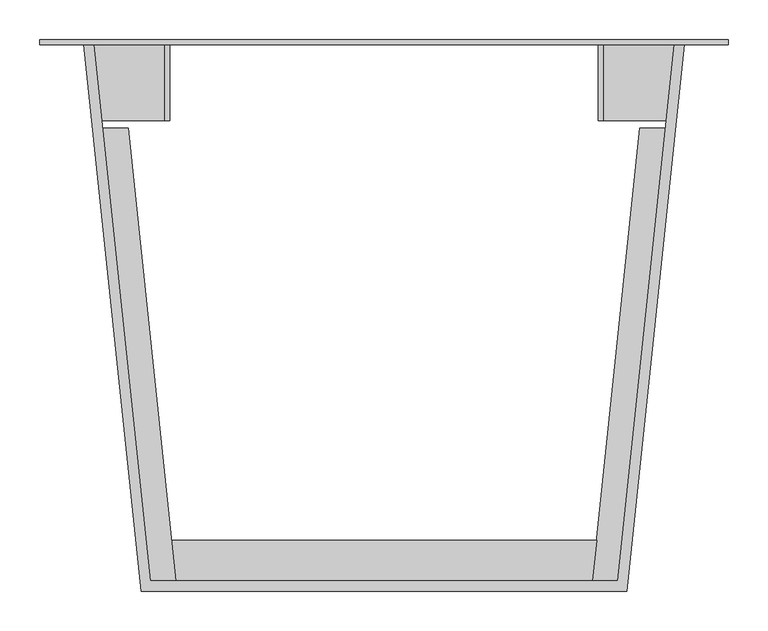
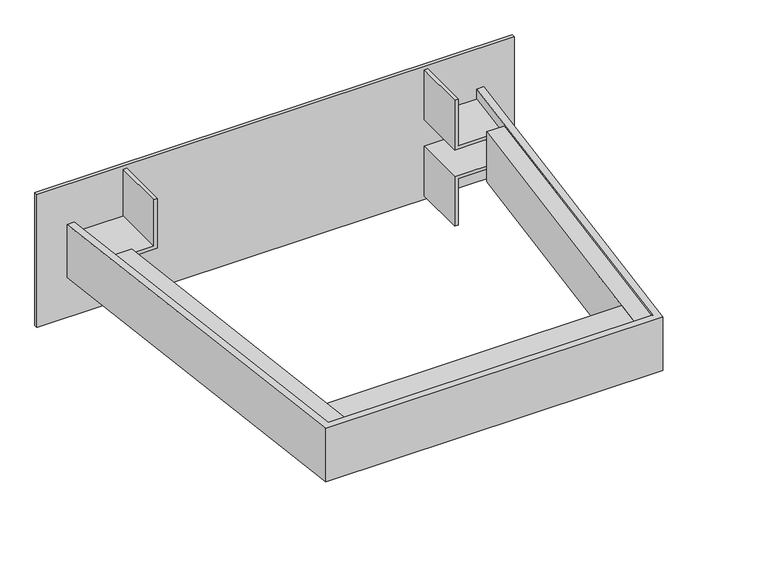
"""IFC4 building model written with IfcOpenShell, lengths in millimetres: proxy geometry, IMPRESS^TABLE 6_24in CTR BASE-PARTS SOLID."""

from ifc_helpers import new_model, si_unit, frame, origin, place, context, project, spatial, polyline, outline, extrude, faceted_brep, source, transform, mapped, element, save


def generic_models_32476a3b(model_context):
    return source(origin(), model_context, "Body", "SolidModel", [
        extrude(outline(polyline([(-48.2982331, 581.025), (-16.3733453, 581.025), (43.3600192, 12.7), (11.4351314, 12.7), (-48.2982331, 581.025)])), frame((0.0, 0.0, 3.175), z_axis=(0.0, 0.0, 1.0), x_axis=(1.0, 0.0, 0.0)), (0.0, 0.0, 1.0), 95.25),
        extrude(outline(polyline([(571.5792759, 63.5), (566.2399808, 12.7), (43.3600192, 12.7), (38.0207241, 63.5), (571.5792759, 63.5)])), frame((0.0, 0.0, 3.175), z_axis=(0.0, 0.0, 1.0), x_axis=(1.0, 0.0, 0.0)), (0.0, 0.0, 1.0), 95.25),
        extrude(outline(polyline([(625.9733453, 581.025), (657.8982331, 581.025), (598.1648686, 12.7), (566.2399808, 12.7), (625.9733453, 581.025)])), frame((0.0, 0.0, 3.175), z_axis=(0.0, 0.0, 1.0), x_axis=(1.0, 0.0, 0.0)), (0.0, 0.0, 1.0), 95.25),
        faceted_brep([(0.0, 0.0, 0.0), (609.6, 0.0, 0.0), (609.6, 0.0, 101.6), (0.0, 0.0, 101.6), (598.1648686, 12.7, 0.0), (11.4351314, 12.7, 0.0), (11.4351314, 12.7, 101.6), (598.1648686, 12.7, 101.6), (736.6, 692.15, 177.8), (736.6, 692.15, -76.2), (-127.0, 692.15, -76.2), (-127.0, 692.15, 177.8), (736.6, 685.8, -76.2), (736.6, 685.8, 177.8), (-127.0, 685.8, 177.8), (-127.0, 685.8, -76.2), (580.0105294, 685.8, 19.05), (580.0105294, 685.8, -69.85), (573.6605294, 685.8, -69.85), (573.6605294, 685.8, 25.4), (668.9105294, 685.8, 25.4), (668.9105294, 685.8, 76.2), (573.6605294, 685.8, 76.2), (573.6605294, 685.8, 171.45), (580.0105294, 685.8, 171.45), (580.0105294, 685.8, 82.55), (668.9105294, 685.8, 82.55), (668.9105294, 685.8, 101.6), (681.6804845, 685.8, 101.6), (681.6804845, 685.8, 0.0), (668.9105294, 685.8, 0.0), (668.9105294, 685.8, 19.05), (35.9394706, 685.8, 25.4), (35.9394706, 685.8, -69.85), (29.5894706, 685.8, -69.85), (29.5894706, 685.8, 19.05), (-59.3105294, 685.8, 19.05), (-59.3105294, 685.8, 0.0), (-72.0804845, 685.8, 0.0), (-72.0804845, 685.8, 101.6), (-59.3105294, 685.8, 101.6), (-59.3105294, 685.8, 82.55), (29.5894706, 685.8, 82.55), (29.5894706, 685.8, 171.45), (35.9394706, 685.8, 171.45), (35.9394706, 685.8, 76.2), (-59.3105294, 685.8, 76.2), (-59.3105294, 685.8, 25.4), (580.0105294, 590.55, 19.05), (580.0105294, 590.55, -69.85), (573.6605294, 590.55, -69.85), (573.6605294, 590.55, 25.4), (35.9394706, 590.55, 25.4), (35.9394706, 590.55, -69.85), (29.5894706, 590.55, -69.85), (29.5894706, 590.55, 19.05), (29.5894706, 590.55, 82.55), (29.5894706, 590.55, 171.45), (35.9394706, 590.55, 171.45), (35.9394706, 590.55, 76.2), (573.6605294, 590.55, 76.2), (573.6605294, 590.55, 171.45), (580.0105294, 590.55, 171.45), (580.0105294, 590.55, 82.55), (658.899351, 590.55, 19.05), (658.899351, 590.55, 25.4), (-49.299351, 590.55, 82.55), (-49.299351, 590.55, 76.2), (658.899351, 590.55, 76.2), (658.899351, 590.55, 82.55), (-49.299351, 590.55, 25.4), (-49.299351, 590.55, 19.05)], [[[0, 1, 2, 3]], [[4, 5, 6, 7]], [[8, 9, 10, 11]], [[12, 13, 14, 15], [16, 17, 18, 19, 20, 21, 22, 23, 24, 25, 26, 27, 28, 29, 30, 31], [32, 33, 34, 35, 36, 37, 38, 39, 40, 41, 42, 43, 44, 45, 46, 47]], [[17, 16, 48, 49]], [[19, 18, 50, 51]], [[33, 32, 52, 53]], [[35, 34, 54, 55]], [[43, 42, 56, 57]], [[45, 44, 58, 59]], [[23, 22, 60, 61]], [[25, 24, 62, 63]], [[12, 15, 10, 9]], [[14, 13, 8, 11]], [[64, 65, 51, 50, 49, 48]], [[65, 20, 19, 51]], [[31, 64, 48, 16]], [[18, 17, 49, 50]], [[66, 67, 59, 58, 57, 56]], [[67, 46, 45, 59]], [[41, 66, 56, 42]], [[44, 43, 57, 58]], [[68, 69, 63, 62, 61, 60]], [[69, 26, 25, 63]], [[24, 23, 61, 62]], [[21, 68, 60, 22]], [[70, 71, 55, 54, 53, 52]], [[71, 36, 35, 55]], [[34, 33, 53, 54]], [[47, 70, 52, 32]], [[15, 14, 11, 10]], [[13, 12, 9, 8]], [[1, 29, 28, 2]], [[38, 0, 3, 39]], [[66, 41, 40, 6, 5, 37, 36, 71, 70, 47, 46, 67]], [[64, 31, 30, 4, 7, 27, 26, 69, 68, 21, 20, 65]], [[28, 27, 7, 6, 40, 39, 3, 2]], [[30, 29, 1, 0, 38, 37, 5, 4]]]),
    ])


if __name__ == "__main__":
    model = new_model("IFC4")
    model_context = context("Model", 3, world=origin())
    ifc_project = project(units=[si_unit("LENGTHUNIT", "METRE", prefix="MILLI")], contexts=[model_context])
    site = spatial("IfcSite", under=ifc_project)
    building = spatial("IfcBuilding", under=site)
    placement = place(None, origin())
    generic_models_shape = generic_models_32476a3b(model_context)
    element("IfcBuildingElementProxy", 1, Name="IMPRESS^TABLE 6_24in CTR BASE-PARTS SOLID", ObjectType="IMPRESS^TABLE 6_24in CTR BASE-PARTS SOLID", at=placement, inside=building, context=model_context, shape_type="MappedRepresentation", body=[
        mapped(generic_models_shape, transform((0.0, 0.0, 0.0), x_axis=(1.0, 0.0, 0.0), y_axis=(0.0, 1.0, 0.0), z_axis=(0.0, 0.0, 1.0))),
    ])
    save(model, "model.ifc")
